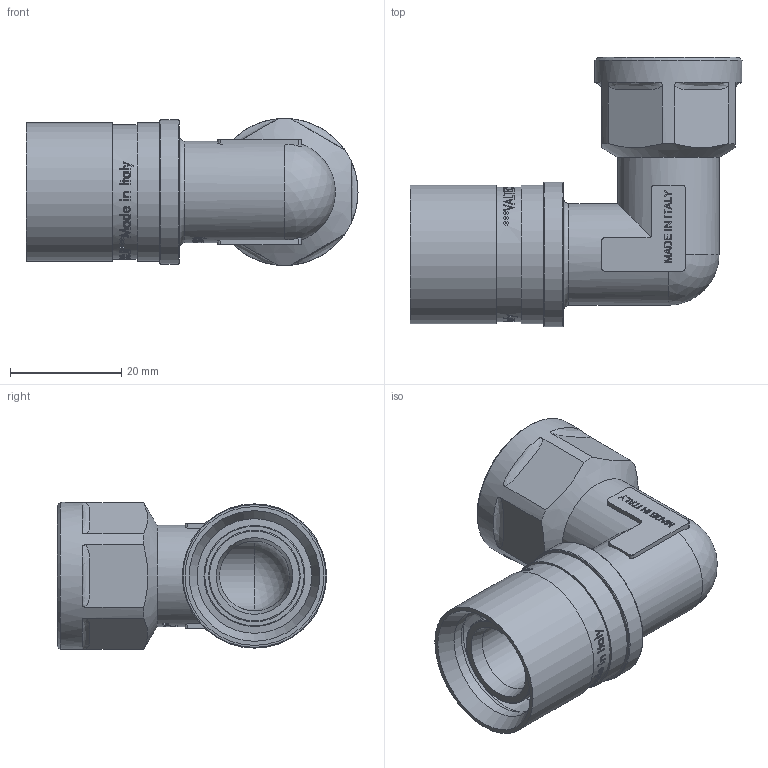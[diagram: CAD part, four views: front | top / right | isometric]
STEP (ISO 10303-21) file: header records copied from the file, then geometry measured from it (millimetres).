
FILE_DESCRIPTION(/* description */ (''),/* implementation_level */ '2;1');
FILE_NAME(/* name */ 'F:\Артём\00000\Работа удаленка\Аксеальные фитинги\VTm.452.BG.002004.stp',/* time_stamp */ '2021-01-27T11:27:03+03:00',/* author */ ('almis'),/* organization */ (''),/* preprocessor_version */ 'ST-DEVELOPER v18',/* originating_system */ 'Autodesk Inventor 2020',/* authorisation */ '');
FILE_SCHEMA (('AUTOMOTIVE_DESIGN { 1 0 10303 214 3 1 1 }'));
Length unit declared in the file: millimetre
Products named in the file (1): VTm.403.BG.001616
Bounding box: 59.81 x 48.5 x 26.5 mm (x, y, z)
Volume: 15673 mm3; surface area: 14118.1 mm2
Topology: 1 solids, 1 shells, 1053 faces, 2892 edges, 1948 vertices
Faces by surface type: bspline 471, plane 422, cylinder 123, torus 23, cone 12, sphere 2
Full cylindrical faces by diameter (mm): 12.6 x2, 15.7 x5, 16.5 x4, 18.2 x1, 18.3 x2, 18.6 x6, 20.65 x2, 22.2 x6, 24.3 x1, 25 x2, 26 x1, 26.5 x1
Entity records: 44513 total; most frequent: CARTESIAN_POINT 20521, ORIENTED_EDGE 5784, DIRECTION 3532, EDGE_CURVE 2892, VERTEX_POINT 1948, LINE 1420, VECTOR 1420, EDGE_LOOP 1162
